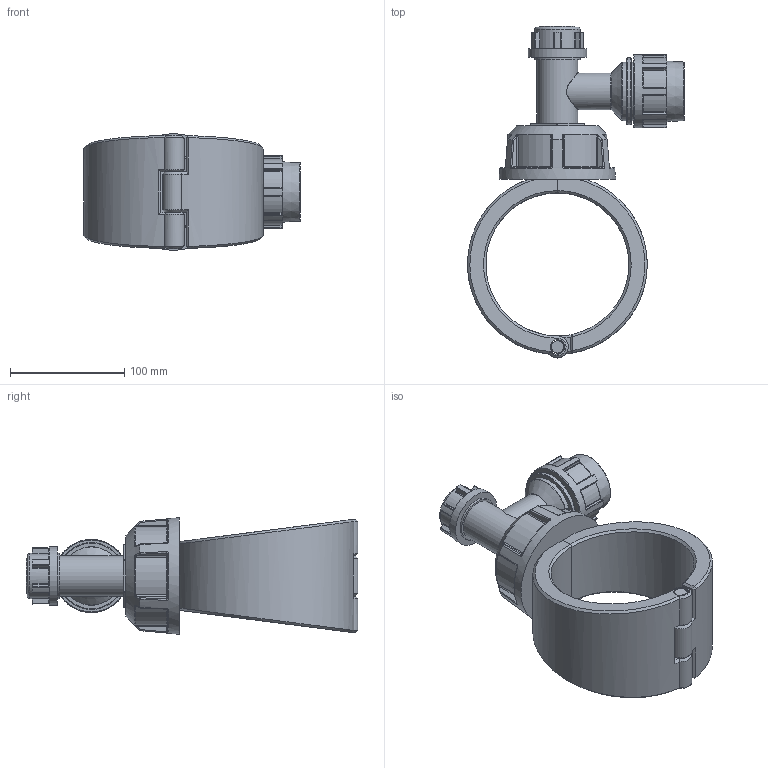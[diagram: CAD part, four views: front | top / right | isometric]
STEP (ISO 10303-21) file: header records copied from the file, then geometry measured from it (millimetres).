
FILE_DESCRIPTION(/* description */ ('Plassadle Tapper 125x32'),/* implementation_level */ '2;1');
FILE_NAME(/* name */ 'C:\Users\comp2\Dropbox\99-16-3568-Processing\Mechanical Fittings\16310\stp\163100160032_1631061600320A.stp',/* time_stamp */ '2022-02-03T11:58:31+00:00',/* author */ ('comp2'),/* organization */ (''),/* preprocessor_version */ 'ST-DEVELOPER v17.2',/* originating_system */ 'Autodesk Inventor 2019',/* authorisation */ '');
FILE_SCHEMA (('AUTOMOTIVE_DESIGN { 1 0 10303 214 3 1 1 }'));
Length unit declared in the file: millimetre
Products named in the file (1): 163100160032_1631061600320A
Bounding box: 189.44 x 290 x 102 mm (x, y, z)
Volume: 1111564.9 mm3; surface area: 157062.2 mm2
Topology: 4 solids, 4 shells, 519 faces, 1253 edges, 754 vertices
Faces by surface type: cylinder 184, plane 109, bspline 87, torus 83, sphere 40, cone 16
Full cylindrical faces by diameter (mm): 10.74 x1, 12.74 x3, 30.6 x1, 32 x2, 35.7 x1, 39.7 x2, 51 x1, 51.2 x2, 58.414 x1, 64 x1
Entity records: 18797 total; most frequent: CARTESIAN_POINT 7044, ORIENTED_EDGE 2508, DIRECTION 2426, EDGE_CURVE 1254, AXIS2_PLACEMENT_3D 1028, VERTEX_POINT 755, CIRCLE 563, EDGE_LOOP 537
